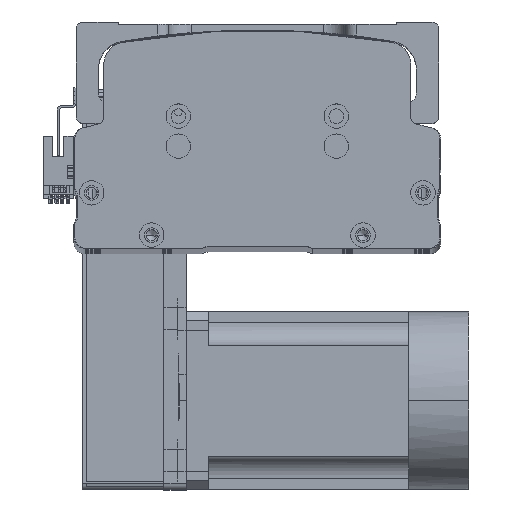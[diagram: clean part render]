
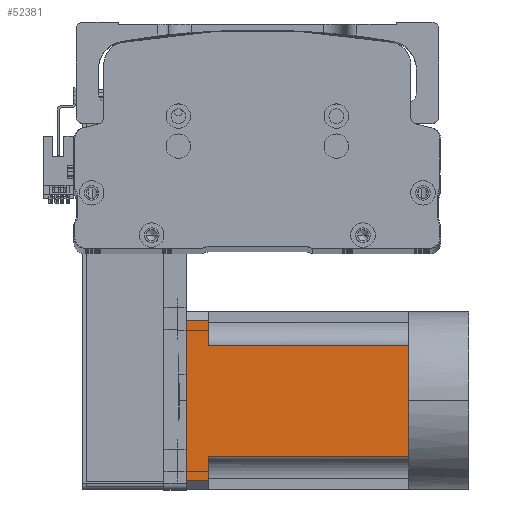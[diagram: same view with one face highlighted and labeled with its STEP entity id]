
A CAD part, top view. The second image highlights one B-rep face of the part: STEP entity #52381.
In plain terms, the highlighted planar face has unit normal (0, 0, 1) as drawn and (0, 0, -1) by its records, which use the part's own axes.
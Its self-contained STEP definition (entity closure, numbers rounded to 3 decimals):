
#367 = ORIENTED_EDGE ( 'NONE', *, *, #6268, .T. ) ;
#593 = ORIENTED_EDGE ( 'NONE', *, *, #33815, .T. ) ;
#1471 = CARTESIAN_POINT ( 'NONE',  ( 36., -27., -40. ) ) ;
#2448 = VERTEX_POINT ( 'NONE', #41764 ) ;
#3833 = LINE ( 'NONE', #64133, #31111 ) ;
#5429 = CARTESIAN_POINT ( 'NONE',  ( 25., -27., -40. ) ) ;
#5573 = VERTEX_POINT ( 'NONE', #6464 ) ;
#5588 = EDGE_CURVE ( 'NONE', #26461, #5573, #17341, .T. ) ;
#6174 = DIRECTION ( 'NONE',  ( -1., 0., 0. ) ) ;
#6268 = EDGE_CURVE ( 'NONE', #19384, #8283, #8378, .T. ) ;
#6464 = CARTESIAN_POINT ( 'NONE',  ( -36., 100., -40. ) ) ;
#7924 = DIRECTION ( 'NONE',  ( -1., 0., 0. ) ) ;
#8283 = VERTEX_POINT ( 'NONE', #27361 ) ;
#8378 = LINE ( 'NONE', #47407, #34053 ) ;
#8602 = ORIENTED_EDGE ( 'NONE', *, *, #50416, .F. ) ;
#9317 = VECTOR ( 'NONE', #7924, 1000. ) ;
#10725 = VERTEX_POINT ( 'NONE', #20858 ) ;
#10816 = VECTOR ( 'NONE', #57632, 1000. ) ;
#11573 = CARTESIAN_POINT ( 'NONE',  ( -40., 0., -40. ) ) ;
#15645 = FACE_OUTER_BOUND ( 'NONE', #18306, .T. ) ;
#15705 = VECTOR ( 'NONE', #57648, 1000. ) ;
#17341 = LINE ( 'NONE', #32216, #15705 ) ;
#18306 = EDGE_LOOP ( 'NONE', ( #8602, #58564, #38272, #593, #29702, #367, #34589, #27913, #22289 ) ) ;
#18412 = DIRECTION ( 'NONE',  ( -1., 0., 0. ) ) ;
#18560 = EDGE_CURVE ( 'NONE', #27587, #10725, #62210, .T. ) ;
#19384 = VERTEX_POINT ( 'NONE', #26399 ) ;
#20818 = VECTOR ( 'NONE', #23680, 1000. ) ;
#20858 = CARTESIAN_POINT ( 'NONE',  ( 25., 90., -40. ) ) ;
#22289 = ORIENTED_EDGE ( 'NONE', *, *, #5588, .T. ) ;
#23680 = DIRECTION ( 'NONE',  ( 0., 1., 0. ) ) ;
#23954 = EDGE_CURVE ( 'NONE', #8283, #2448, #36104, .T. ) ;
#24870 = CARTESIAN_POINT ( 'NONE',  ( -36., 90., -40. ) ) ;
#26399 = CARTESIAN_POINT ( 'NONE',  ( 0., 0., -40. ) ) ;
#26461 = VERTEX_POINT ( 'NONE', #24870 ) ;
#27361 = CARTESIAN_POINT ( 'NONE',  ( -25., 0., -40. ) ) ;
#27587 = VERTEX_POINT ( 'NONE', #41111 ) ;
#27913 = ORIENTED_EDGE ( 'NONE', *, *, #57680, .T. ) ;
#28804 = LINE ( 'NONE', #5429, #44037 ) ;
#29580 = VECTOR ( 'NONE', #18412, 1000. ) ;
#29702 = ORIENTED_EDGE ( 'NONE', *, *, #44681, .T. ) ;
#31111 = VECTOR ( 'NONE', #63930, 1000. ) ;
#32216 = CARTESIAN_POINT ( 'NONE',  ( -36., -27., -40. ) ) ;
#33815 = EDGE_CURVE ( 'NONE', #10725, #49947, #28804, .T. ) ;
#34001 = CARTESIAN_POINT ( 'NONE',  ( -25., -27., -40. ) ) ;
#34053 = VECTOR ( 'NONE', #52480, 1000. ) ;
#34589 = ORIENTED_EDGE ( 'NONE', *, *, #23954, .T. ) ;
#35354 = LINE ( 'NONE', #1471, #60934 ) ;
#36104 = LINE ( 'NONE', #34001, #20818 ) ;
#36672 = DIRECTION ( 'NONE',  ( 0., 0., -1. ) ) ;
#36901 = PLANE ( 'NONE',  #61820 ) ;
#37332 = DIRECTION ( 'NONE',  ( 0., -1., 0. ) ) ;
#38272 = ORIENTED_EDGE ( 'NONE', *, *, #18560, .T. ) ;
#41111 = CARTESIAN_POINT ( 'NONE',  ( 36., 90., -40. ) ) ;
#41764 = CARTESIAN_POINT ( 'NONE',  ( -25., 90., -40. ) ) ;
#43247 = LINE ( 'NONE', #48871, #29580 ) ;
#43764 = CARTESIAN_POINT ( 'NONE',  ( -40., 90., -40. ) ) ;
#44037 = VECTOR ( 'NONE', #56354, 1000. ) ;
#44681 = EDGE_CURVE ( 'NONE', #49947, #19384, #65278, .T. ) ;
#47407 = CARTESIAN_POINT ( 'NONE',  ( -40., 0., -40. ) ) ;
#48871 = CARTESIAN_POINT ( 'NONE',  ( -40., 90., -40. ) ) ;
#49947 = VERTEX_POINT ( 'NONE', #60133 ) ;
#50416 = EDGE_CURVE ( 'NONE', #50653, #5573, #3833, .T. ) ;
#50653 = VERTEX_POINT ( 'NONE', #55730 ) ;
#52381 = ADVANCED_FACE ( 'NONE', ( #15645 ), #36901, .T. ) ;
#52480 = DIRECTION ( 'NONE',  ( -1., 0., 0. ) ) ;
#54363 = EDGE_CURVE ( 'NONE', #50653, #27587, #35354, .T. ) ;
#55730 = CARTESIAN_POINT ( 'NONE',  ( 36., 100., -40. ) ) ;
#56354 = DIRECTION ( 'NONE',  ( 0., -1., 0. ) ) ;
#57632 = DIRECTION ( 'NONE',  ( -1., 0., 0. ) ) ;
#57648 = DIRECTION ( 'NONE',  ( 0., 1., 0. ) ) ;
#57680 = EDGE_CURVE ( 'NONE', #2448, #26461, #43247, .T. ) ;
#58564 = ORIENTED_EDGE ( 'NONE', *, *, #54363, .T. ) ;
#60133 = CARTESIAN_POINT ( 'NONE',  ( 25., 0., -40. ) ) ;
#60934 = VECTOR ( 'NONE', #37332, 1000. ) ;
#61820 = AXIS2_PLACEMENT_3D ( 'NONE', #62338, #36672, #6174 ) ;
#62210 = LINE ( 'NONE', #43764, #9317 ) ;
#62338 = CARTESIAN_POINT ( 'NONE',  ( -40., -27., -40. ) ) ;
#63930 = DIRECTION ( 'NONE',  ( -1., 0., 0. ) ) ;
#64133 = CARTESIAN_POINT ( 'NONE',  ( -40., 100., -40. ) ) ;
#65278 = LINE ( 'NONE', #11573, #10816 ) ;
